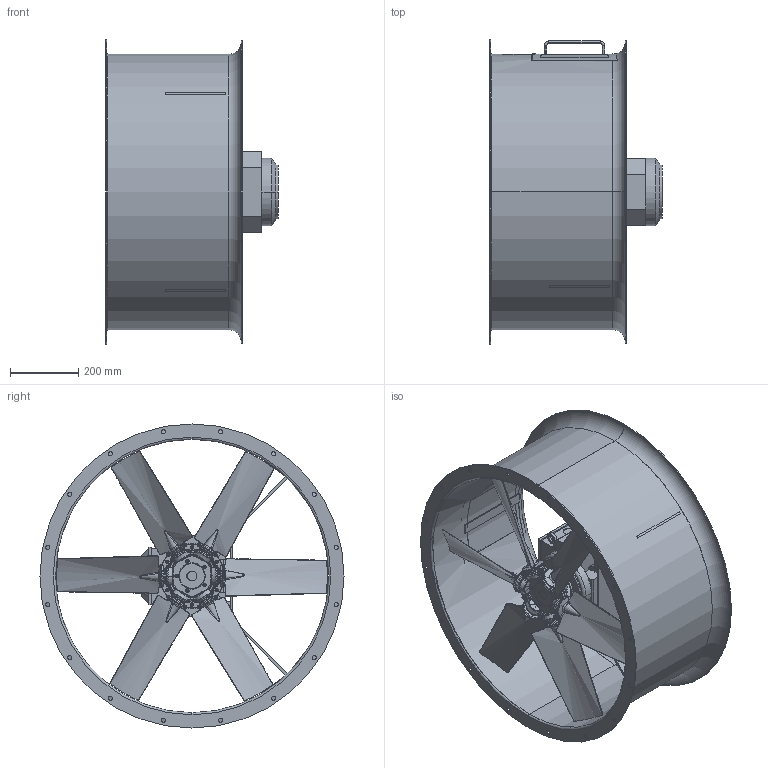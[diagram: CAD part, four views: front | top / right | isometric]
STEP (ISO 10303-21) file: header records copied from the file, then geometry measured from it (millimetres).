
FILE_DESCRIPTION (( 'STEP AP214' ), '1' );
FILE_NAME ('BRV800_KF_L=400_mot.112_kort utf.STEP', '2020-09-07T11:55:14', ( '' ), ( '' ), 'SwSTEP 2.0', 'SolidWorks 2016', '' );
FILE_SCHEMA (( 'AUTOMOTIVE_DESIGN' ));
Length unit declared in the file: millimetre
Products named in the file (23): M8_C1-1 Bolt And Nuts - 792_6-6_36_PPG_5ZL_28_8_62_A-121520; 792_6-6_36_PPG_5ZL_28_8_62_A-121520; 24000706200 - 792_6-6_36_PPG_5ZL_28_8_62_A-121520; BRV800_KF_L=400_mot.112_kort utf; BB-Bolt-Y62006200008_792_6-6_36_PPG_5ZL_28_8_62_A-121520; BRV 800_FF_L=400_mot.112_kort utf; Boss Bolt And Nuts - 792_6-6_36_PPG_5ZL_28_8_62_A-121520; M8_C1-1 Bolt And Nuts - 792_6-6_36_PPG_5ZL_28_8_62_A-121520_3; Boss Bolt And Nuts - 792_6-6_36_PPG_5ZL_28_8_62_A-121520_3; C1-1-Bolt-Y62006250000_792_6-6_36_PPG_5ZL_28_8_62_A-121520; 21060708106 - 792_6-6_36_PPG_5ZL_28_8_62_A-121520; Boss Bolt And Nuts - 792_6-6_36_PPG_5ZL_28_8_62_A-121520_4; M8_C1-1 Bolt And Nuts - 792_6-6_36_PPG_5ZL_28_8_62_A-121520_6; BB-Nut-Y63206000006_792_6-6_36_PPG_5ZL_28_8_62_A-121520; BRV 800 Insp.luke 200x200; M8_C1-1 Bolt And Nuts - 792_6-6_36_PPG_5ZL_28_8_62_A-121520_5; M8_C1-1 Bolt And Nuts - 792_6-6_36_PPG_5ZL_28_8_62_A-121520_2; M8_C1-1 Bolt And Nuts - 792_6-6_36_PPG_5ZL_28_8_62_A-121520_4; Boss Bolt And Nuts - 792_6-6_36_PPG_5ZL_28_8_62_A-121520_5; Boss Bolt And Nuts - 792_6-6_36_PPG_5ZL_28_8_62_A-121520_2; 3D M3AA 112; 15100100018 - 792_6-6_36_PPG_5ZL_28_8_62_A-121520; C1-1-Nuts-Y63206000006_792_6-6_36_PPG_5ZL_28_8_62_A-121520
Assembly tree (46 placements, depth 4):
  BRV800_KF_L=400_mot.112_kort utf
    BRV 800_FF_L=400_mot.112_kort utf
    3D M3AA 112
    792_6-6_36_PPG_5ZL_28_8_62_A-121520
      21060708106 - 792_6-6_36_PPG_5ZL_28_8_62_A-121520  x2
      15100100018 - 792_6-6_36_PPG_5ZL_28_8_62_A-121520  x6
      24000706200 - 792_6-6_36_PPG_5ZL_28_8_62_A-121520
      Boss Bolt And Nuts - 792_6-6_36_PPG_5ZL_28_8_62_A-121520
        BB-Bolt-Y62006200008_792_6-6_36_PPG_5ZL_28_8_62_A-121520
        BB-Nut-Y63206000006_792_6-6_36_PPG_5ZL_28_8_62_A-121520
      M8_C1-1 Bolt And Nuts - 792_6-6_36_PPG_5ZL_28_8_62_A-121520
        C1-1-Bolt-Y62006250000_792_6-6_36_PPG_5ZL_28_8_62_A-121520
        C1-1-Nuts-Y63206000006_792_6-6_36_PPG_5ZL_28_8_62_A-121520
      Boss Bolt And Nuts - 792_6-6_36_PPG_5ZL_28_8_62_A-121520_2
        BB-Bolt-Y62006200008_792_6-6_36_PPG_5ZL_28_8_62_A-121520
        BB-Nut-Y63206000006_792_6-6_36_PPG_5ZL_28_8_62_A-121520
      Boss Bolt And Nuts - 792_6-6_36_PPG_5ZL_28_8_62_A-121520_3
        BB-Bolt-Y62006200008_792_6-6_36_PPG_5ZL_28_8_62_A-121520
        BB-Nut-Y63206000006_792_6-6_36_PPG_5ZL_28_8_62_A-121520
      Boss Bolt And Nuts - 792_6-6_36_PPG_5ZL_28_8_62_A-121520_4
        BB-Bolt-Y62006200008_792_6-6_36_PPG_5ZL_28_8_62_A-121520
        BB-Nut-Y63206000006_792_6-6_36_PPG_5ZL_28_8_62_A-121520
      Boss Bolt And Nuts - 792_6-6_36_PPG_5ZL_28_8_62_A-121520_5
        BB-Bolt-Y62006200008_792_6-6_36_PPG_5ZL_28_8_62_A-121520
        BB-Nut-Y63206000006_792_6-6_36_PPG_5ZL_28_8_62_A-121520
      M8_C1-1 Bolt And Nuts - 792_6-6_36_PPG_5ZL_28_8_62_A-121520_2
        C1-1-Bolt-Y62006250000_792_6-6_36_PPG_5ZL_28_8_62_A-121520
        C1-1-Nuts-Y63206000006_792_6-6_36_PPG_5ZL_28_8_62_A-121520
      M8_C1-1 Bolt And Nuts - 792_6-6_36_PPG_5ZL_28_8_62_A-121520_3
        C1-1-Bolt-Y62006250000_792_6-6_36_PPG_5ZL_28_8_62_A-121520
        C1-1-Nuts-Y63206000006_792_6-6_36_PPG_5ZL_28_8_62_A-121520
      M8_C1-1 Bolt And Nuts - 792_6-6_36_PPG_5ZL_28_8_62_A-121520_4
        C1-1-Bolt-Y62006250000_792_6-6_36_PPG_5ZL_28_8_62_A-121520
        C1-1-Nuts-Y63206000006_792_6-6_36_PPG_5ZL_28_8_62_A-121520
      M8_C1-1 Bolt And Nuts - 792_6-6_36_PPG_5ZL_28_8_62_A-121520_5
        C1-1-Bolt-Y62006250000_792_6-6_36_PPG_5ZL_28_8_62_A-121520
        C1-1-Nuts-Y63206000006_792_6-6_36_PPG_5ZL_28_8_62_A-121520
      M8_C1-1 Bolt And Nuts - 792_6-6_36_PPG_5ZL_28_8_62_A-121520_6
        C1-1-Bolt-Y62006250000_792_6-6_36_PPG_5ZL_28_8_62_A-121520
        C1-1-Nuts-Y63206000006_792_6-6_36_PPG_5ZL_28_8_62_A-121520
    BRV 800 Insp.luke 200x200
Bounding box: 505 x 890 x 890 mm (x, y, z)
Volume: 18692113.4 mm3; surface area: 4003521.6 mm2
Topology: 38 solids, 38 shells, 2395 faces, 5774 edges, 3452 vertices
Faces by surface type: bspline 1104, plane 475, cone 468, cylinder 328, torus 20
Entity records: 50972 total; most frequent: CARTESIAN_POINT 26947, ORIENTED_EDGE 5392, DIRECTION 4150, EDGE_CURVE 2696, AXIS2_PLACEMENT_3D 1682, VERTEX_POINT 1661, EDGE_LOOP 1231, FACE_OUTER_BOUND 1097
